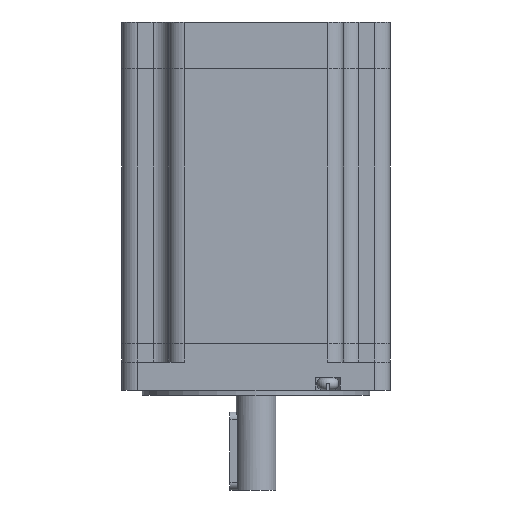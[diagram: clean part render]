
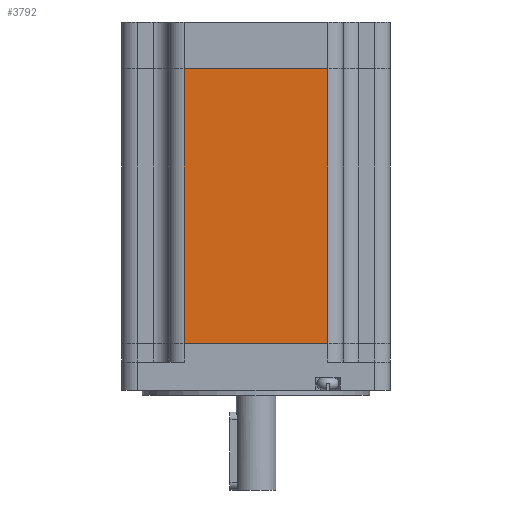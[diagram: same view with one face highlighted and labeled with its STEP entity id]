
A CAD part, front view. The second image highlights one B-rep face of the part: STEP entity #3792.
In plain terms, the highlighted planar face has unit normal (0, -1, 0).
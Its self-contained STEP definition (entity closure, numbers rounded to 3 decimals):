
#199 = EDGE_CURVE ( 'NONE', #731, #2746, #3429, .T. ) ;
#231 = DIRECTION ( 'NONE',  ( -1., 0., 0. ) ) ;
#379 = DIRECTION ( 'NONE',  ( 0., 0., -1. ) ) ;
#424 = CARTESIAN_POINT ( 'NONE',  ( 37., -28.1, 0. ) ) ;
#654 = CARTESIAN_POINT ( 'NONE',  ( -9., -28.1, 0. ) ) ;
#681 = ORIENTED_EDGE ( 'NONE', *, *, #4742, .F. ) ;
#731 = VERTEX_POINT ( 'NONE', #424 ) ;
#743 = DIRECTION ( 'NONE',  ( 1., 0., 0. ) ) ;
#865 = DIRECTION ( 'NONE',  ( 0., 0., 1. ) ) ;
#1238 = DIRECTION ( 'NONE',  ( 1., 0., 0. ) ) ;
#1571 = VECTOR ( 'NONE', #743, 1000. ) ;
#1768 = ORIENTED_EDGE ( 'NONE', *, *, #2138, .F. ) ;
#1921 = VERTEX_POINT ( 'NONE', #1985 ) ;
#1975 = VECTOR ( 'NONE', #865, 1000. ) ;
#1985 = CARTESIAN_POINT ( 'NONE',  ( -9., -28.1, 88. ) ) ;
#2138 = EDGE_CURVE ( 'NONE', #2746, #1921, #4736, .T. ) ;
#2355 = CARTESIAN_POINT ( 'NONE',  ( -9., -28.1, 0. ) ) ;
#2552 = DIRECTION ( 'NONE',  ( 0., 1., 0. ) ) ;
#2746 = VERTEX_POINT ( 'NONE', #2355 ) ;
#2922 = CARTESIAN_POINT ( 'NONE',  ( 37., -28.1, 88. ) ) ;
#2977 = CARTESIAN_POINT ( 'NONE',  ( 37., -28.1, 88. ) ) ;
#2984 = CARTESIAN_POINT ( 'NONE',  ( -9., -28.1, 88. ) ) ;
#2990 = LINE ( 'NONE', #5547, #1571 ) ;
#3017 = PLANE ( 'NONE',  #4275 ) ;
#3037 = FACE_OUTER_BOUND ( 'NONE', #3072, .T. ) ;
#3072 = EDGE_LOOP ( 'NONE', ( #3751, #681, #1768, #4240 ) ) ;
#3302 = VECTOR ( 'NONE', #231, 1000. ) ;
#3363 = EDGE_CURVE ( 'NONE', #3614, #731, #5168, .T. ) ;
#3429 = LINE ( 'NONE', #654, #3302 ) ;
#3614 = VERTEX_POINT ( 'NONE', #2922 ) ;
#3751 = ORIENTED_EDGE ( 'NONE', *, *, #3363, .F. ) ;
#3792 = ADVANCED_FACE ( 'NONE', ( #3037 ), #3017, .F. ) ;
#4240 = ORIENTED_EDGE ( 'NONE', *, *, #199, .F. ) ;
#4275 = AXIS2_PLACEMENT_3D ( 'NONE', #4313, #2552, #1238 ) ;
#4313 = CARTESIAN_POINT ( 'NONE',  ( -9., -28.1, 88. ) ) ;
#4736 = LINE ( 'NONE', #2984, #1975 ) ;
#4742 = EDGE_CURVE ( 'NONE', #1921, #3614, #2990, .T. ) ;
#5026 = VECTOR ( 'NONE', #379, 1000. ) ;
#5168 = LINE ( 'NONE', #2977, #5026 ) ;
#5547 = CARTESIAN_POINT ( 'NONE',  ( 37., -28.1, 88. ) ) ;
